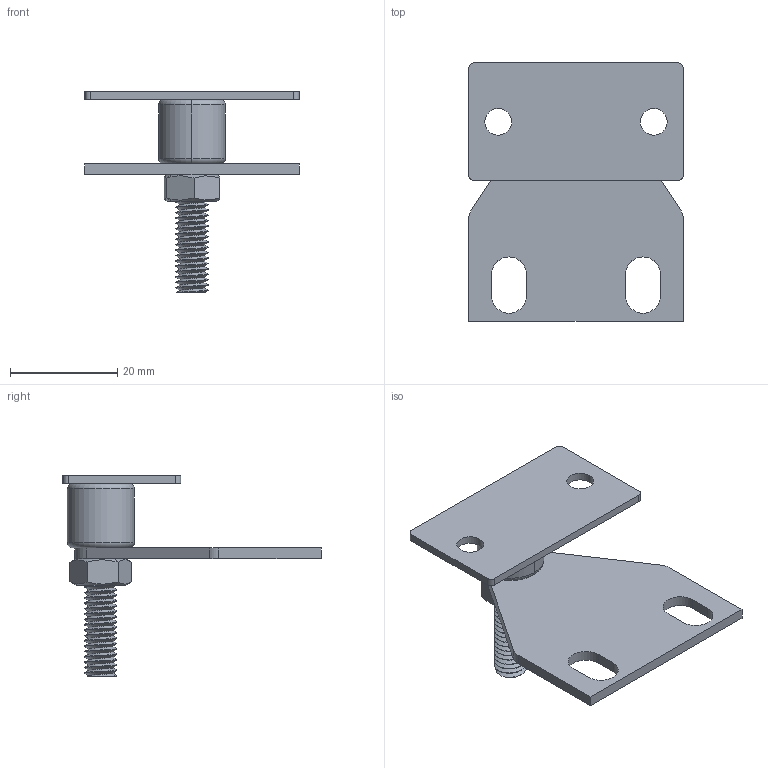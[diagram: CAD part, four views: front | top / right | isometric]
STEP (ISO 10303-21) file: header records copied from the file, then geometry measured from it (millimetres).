
FILE_DESCRIPTION (( 'STEP AP203' ), '1' );
FILE_NAME ('216-CE-DOS-AD.STEP', '2015-07-09T09:28:31', ( '' ), ( '' ), 'SwSTEP 2.0', 'SolidWorks 2013', '' );
FILE_SCHEMA (( 'CONFIG_CONTROL_DESIGN' ));
Length unit declared in the file: millimetre
Products named in the file (1): 216-CE-DOS-AD
Bounding box: 40 x 48.19 x 37.5 mm (x, y, z)
Surface area: 6410.2 mm2 (no closed solid volume)
Topology: 0 solids, 4 shells, 103 faces, 287 edges, 191 vertices
Faces by surface type: cylinder 66, plane 26, torus 4, cone 4, bspline 3
Entity records: 6554 total; most frequent: CARTESIAN_POINT 4122, ORIENTED_EDGE 561, DIRECTION 422, EDGE_CURVE 287, VERTEX_POINT 191, AXIS2_PLACEMENT_3D 154, EDGE_LOOP 115, LINE 114
